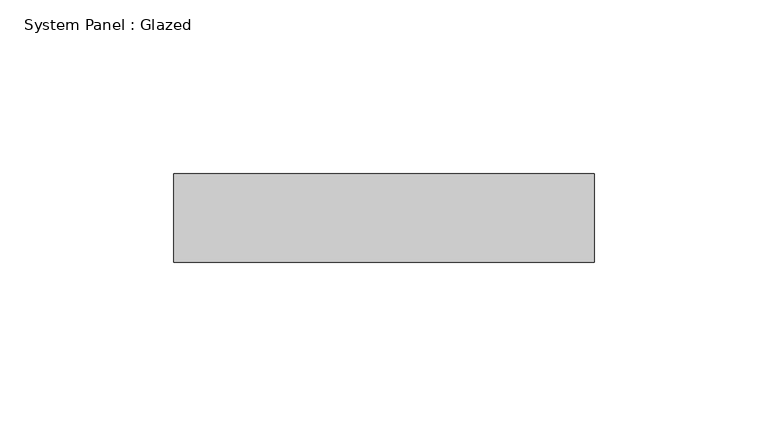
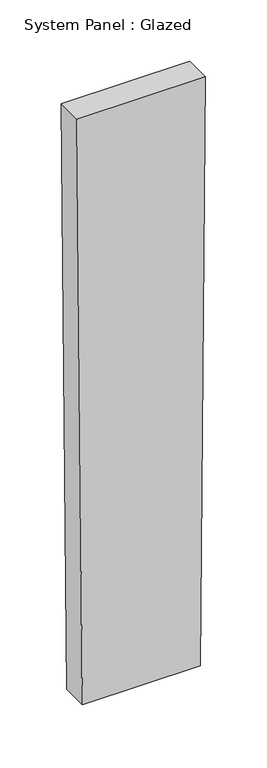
"""IFC4 building model written with IfcOpenShell, lengths in millimetres: plate geometry, System Panel : Glazed."""

from ifc_helpers import new_model, si_unit, frame, origin, place, context, project, spatial, polyline, outline, extrude, source, transform, mapped, element, save


def system_panel_glazed_d7dbf363(model_context):
    return source(origin(), model_context, "Body", "SweptSolid", [
        extrude(outline(polyline([(0.0, -55.4473248), (0.0, 55.4473248), (584.1781227, 60.3966552), (584.1781227, -60.3966552), (0.0, -55.4473248)])), frame((0.0, 19.05, 0.0), z_axis=(0.0, 1.0, 0.0), x_axis=(0.0, 0.0, 1.0)), (0.0, 0.0, 1.0), 25.4),
    ])


if __name__ == "__main__":
    model = new_model("IFC4")
    model_context = context("Model", 3, world=origin())
    ifc_project = project(units=[si_unit("LENGTHUNIT", "METRE", prefix="MILLI")], contexts=[model_context])
    site = spatial("IfcSite", under=ifc_project)
    building = spatial("IfcBuilding", under=site)
    placement = place(None, origin())
    system_panel_glazed_shape = system_panel_glazed_d7dbf363(model_context)
    element("IfcPlate", 1, ObjectType="System Panel : Glazed", at=placement, inside=building, context=model_context, shape_type="MappedRepresentation", body=[
        mapped(system_panel_glazed_shape, transform((0.0, 0.0, 0.0), x_axis=(1.0, 0.0, 0.0), y_axis=(0.0, 1.0, 0.0), z_axis=(0.0, 0.0, 1.0))),
    ])
    save(model, "model.ifc")
